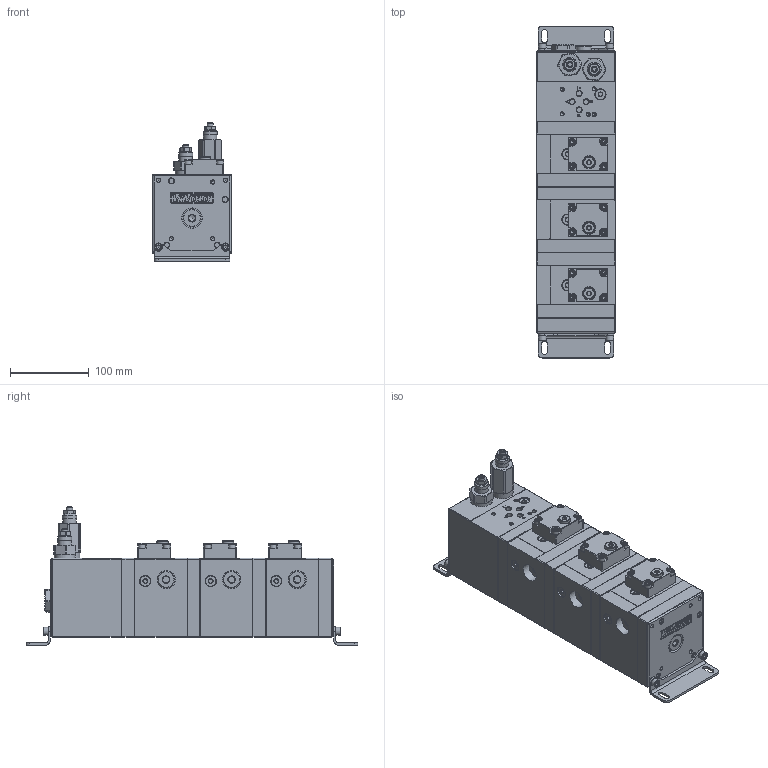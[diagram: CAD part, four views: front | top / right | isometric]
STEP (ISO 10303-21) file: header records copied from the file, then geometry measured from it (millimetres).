
FILE_DESCRIPTION(/* description */ ('Unknown'),/* implementation_level */ '2;1');
FILE_NAME(/* name */ 'MVE03_23',/* time_stamp */ '2017-07-10T10:12:40+02:00',/* author */ ('Unknown'),/* organization */ ('Unknown'),/* preprocessor_version */ 'ST-DEVELOPER v16.7',/* originating_system */ 'DEX',/* authorisation */ $);
FILE_SCHEMA (('AUTOMOTIVE_DESIGN {1 0 10303 214 3 1 1}'));
Products named in the file (1): MVE03_23
Bounding box: 100 x 420.5 x 175 mm (x, y, z)
Volume: 3702853.7 mm3; surface area: 238975.9 mm2
Topology: 1 solids, 40 shells, 1810 faces, 4420 edges, 2826 vertices
Faces by surface type: plane 1113, cylinder 364, cone 215, bspline 90, torus 28
Full cylindrical faces by diameter (mm): 4 x4, 4.134 x32, 4.917 x14, 6.5 x16, 6.647 x4, 8 x3, 8.5 x12, 10 x4, 13 x4, 13.5 x4, 14 x11, 14.2 x8, 14.95 x12, 15.5 x3, 17 x2, 18 x2, 18.631 x4, 19 x2, 19.5 x1, 22 x4, 23 x3, 25 x6, 25.4 x1, 26.5 x3, 28 x2, 30 x2, 30.5 x1
Entity records: 74546 total; most frequent: CARTESIAN_POINT 22789, ORIENTED_EDGE 7710, DIRECTION 7681, EDGE_CURVE 3855, AXIS2_PLACEMENT_3D 2784, VERTEX_POINT 2649, FACE_BOUND 2366, EDGE_LOOP 2308
